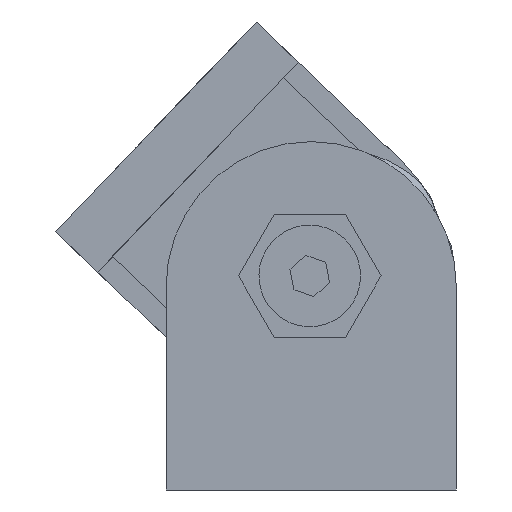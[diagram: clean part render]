
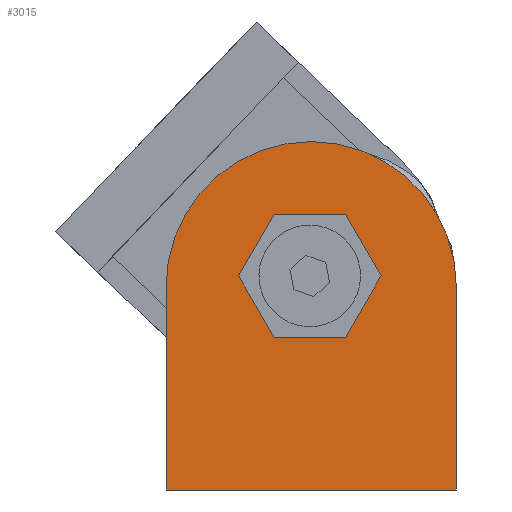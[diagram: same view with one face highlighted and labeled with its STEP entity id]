
A CAD part, left-side view. The second image highlights one B-rep face of the part: STEP entity #3015.
In plain terms, the highlighted planar face has unit normal (-1, 0, 0).
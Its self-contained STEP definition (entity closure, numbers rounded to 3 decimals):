
#7 = VECTOR ( 'NONE', #3054, 1000. ) ;
#19 = VECTOR ( 'NONE', #1827, 1000. ) ;
#23 = PLANE ( 'NONE',  #3921 ) ;
#69 = VECTOR ( 'NONE', #2554, 1000. ) ;
#74 = CARTESIAN_POINT ( 'NONE',  ( -26.332, 8.882, 29.5 ) ) ;
#135 = FACE_OUTER_BOUND ( 'NONE', #1474, .T. ) ;
#325 = CARTESIAN_POINT ( 'NONE',  ( -26.332, 3.974, 21. ) ) ;
#422 = CARTESIAN_POINT ( 'NONE',  ( -26.332, 18.882, 28. ) ) ;
#541 = CIRCLE ( 'NONE', #2945, 20. ) ;
#678 = VERTEX_POINT ( 'NONE', #2544 ) ;
#703 = CARTESIAN_POINT ( 'NONE',  ( -26.332, 18.882, 0. ) ) ;
#794 = VERTEX_POINT ( 'NONE', #74 ) ;
#883 = CARTESIAN_POINT ( 'NONE',  ( -26.332, 18.882, 48. ) ) ;
#900 = VERTEX_POINT ( 'NONE', #2691 ) ;
#935 = EDGE_CURVE ( 'NONE', #2254, #4011, #541, .T. ) ;
#1003 = LINE ( 'NONE', #1207, #69 ) ;
#1007 = EDGE_CURVE ( 'NONE', #900, #1428, #2773, .T. ) ;
#1009 = DIRECTION ( 'NONE',  ( 0., 1., 0. ) ) ;
#1028 = DIRECTION ( 'NONE',  ( -1., 0., 0. ) ) ;
#1084 = LINE ( 'NONE', #2063, #1090 ) ;
#1086 = ORIENTED_EDGE ( 'NONE', *, *, #4455, .T. ) ;
#1087 = ORIENTED_EDGE ( 'NONE', *, *, #4403, .F. ) ;
#1090 = VECTOR ( 'NONE', #3943, 1000. ) ;
#1202 = ORIENTED_EDGE ( 'NONE', *, *, #4249, .F. ) ;
#1207 = CARTESIAN_POINT ( 'NONE',  ( -26.332, -5.841, 21. ) ) ;
#1226 = EDGE_CURVE ( 'NONE', #1428, #4196, #1084, .T. ) ;
#1428 = VERTEX_POINT ( 'NONE', #2388 ) ;
#1456 = VECTOR ( 'NONE', #4435, 1000. ) ;
#1474 = EDGE_LOOP ( 'NONE', ( #1086, #3543, #2252, #3587, #1202 ) ) ;
#1510 = VECTOR ( 'NONE', #2463, 1000. ) ;
#1637 = DIRECTION ( 'NONE',  ( 1., 0., 0. ) ) ;
#1794 = ORIENTED_EDGE ( 'NONE', *, *, #1007, .F. ) ;
#1799 = LINE ( 'NONE', #883, #7 ) ;
#1827 = DIRECTION ( 'NONE',  ( 0., -0.5, -0.866 ) ) ;
#1833 = ORIENTED_EDGE ( 'NONE', *, *, #2943, .F. ) ;
#1919 = FACE_BOUND ( 'NONE', #4465, .T. ) ;
#2010 = CARTESIAN_POINT ( 'NONE',  ( -26.332, 3.974, 38. ) ) ;
#2063 = CARTESIAN_POINT ( 'NONE',  ( -26.332, -5.841, 38. ) ) ;
#2163 = VERTEX_POINT ( 'NONE', #703 ) ;
#2178 = CARTESIAN_POINT ( 'NONE',  ( -26.332, -1.118, 48. ) ) ;
#2238 = DIRECTION ( 'NONE',  ( -1., 0., 0. ) ) ;
#2252 = ORIENTED_EDGE ( 'NONE', *, *, #4158, .T. ) ;
#2254 = VERTEX_POINT ( 'NONE', #2178 ) ;
#2280 = DIRECTION ( 'NONE',  ( 0., 0.5, 0.866 ) ) ;
#2388 = CARTESIAN_POINT ( 'NONE',  ( -26.332, -5.841, 38. ) ) ;
#2409 = LINE ( 'NONE', #2416, #1456 ) ;
#2416 = CARTESIAN_POINT ( 'NONE',  ( -26.332, -21.118, 48. ) ) ;
#2443 = CARTESIAN_POINT ( 'NONE',  ( -26.332, -21.118, 28. ) ) ;
#2449 = CARTESIAN_POINT ( 'NONE',  ( -26.332, 18.882, 0. ) ) ;
#2463 = DIRECTION ( 'NONE',  ( 0., -1., 0. ) ) ;
#2544 = CARTESIAN_POINT ( 'NONE',  ( -26.332, 3.974, 21. ) ) ;
#2554 = DIRECTION ( 'NONE',  ( 0., -0.5, 0.866 ) ) ;
#2558 = CARTESIAN_POINT ( 'NONE',  ( -26.332, -1.118, 28. ) ) ;
#2587 = VERTEX_POINT ( 'NONE', #2443 ) ;
#2657 = VECTOR ( 'NONE', #2280, 1000. ) ;
#2691 = CARTESIAN_POINT ( 'NONE',  ( -26.332, -10.748, 29.5 ) ) ;
#2697 = LINE ( 'NONE', #2449, #4522 ) ;
#2773 = LINE ( 'NONE', #2841, #2657 ) ;
#2841 = CARTESIAN_POINT ( 'NONE',  ( -26.332, -10.748, 29.5 ) ) ;
#2933 = AXIS2_PLACEMENT_3D ( 'NONE', #3471, #1028, #3143 ) ;
#2943 = EDGE_CURVE ( 'NONE', #4196, #794, #3281, .T. ) ;
#2945 = AXIS2_PLACEMENT_3D ( 'NONE', #2558, #2238, #1009 ) ;
#3015 = ADVANCED_FACE ( 'NONE', ( #135, #1919 ), #23, .F. ) ;
#3028 = EDGE_CURVE ( 'NONE', #794, #678, #3636, .T. ) ;
#3054 = DIRECTION ( 'NONE',  ( 0., 0., -1. ) ) ;
#3060 = DIRECTION ( 'NONE',  ( 0., 1., 0. ) ) ;
#3143 = DIRECTION ( 'NONE',  ( 0., 1., 0. ) ) ;
#3169 = ORIENTED_EDGE ( 'NONE', *, *, #3028, .F. ) ;
#3195 = ORIENTED_EDGE ( 'NONE', *, *, #1226, .F. ) ;
#3281 = LINE ( 'NONE', #4102, #3960 ) ;
#3367 = CARTESIAN_POINT ( 'NONE',  ( -26.332, -5.841, 21. ) ) ;
#3370 = EDGE_CURVE ( 'NONE', #2163, #4000, #2697, .T. ) ;
#3415 = DIRECTION ( 'NONE',  ( 0., -1., 0. ) ) ;
#3471 = CARTESIAN_POINT ( 'NONE',  ( -26.332, -1.118, 28. ) ) ;
#3543 = ORIENTED_EDGE ( 'NONE', *, *, #935, .T. ) ;
#3587 = ORIENTED_EDGE ( 'NONE', *, *, #3370, .T. ) ;
#3636 = LINE ( 'NONE', #3858, #19 ) ;
#3661 = CARTESIAN_POINT ( 'NONE',  ( -26.332, -21.118, 0. ) ) ;
#3676 = CIRCLE ( 'NONE', #2933, 20. ) ;
#3724 = CARTESIAN_POINT ( 'NONE',  ( -26.332, 18.882, 48. ) ) ;
#3778 = VERTEX_POINT ( 'NONE', #3367 ) ;
#3858 = CARTESIAN_POINT ( 'NONE',  ( -26.332, 8.882, 29.5 ) ) ;
#3921 = AXIS2_PLACEMENT_3D ( 'NONE', #3724, #1637, #3060 ) ;
#3943 = DIRECTION ( 'NONE',  ( 0., 1., 0. ) ) ;
#3960 = VECTOR ( 'NONE', #4034, 1000. ) ;
#4000 = VERTEX_POINT ( 'NONE', #3661 ) ;
#4004 = ORIENTED_EDGE ( 'NONE', *, *, #4486, .F. ) ;
#4011 = VERTEX_POINT ( 'NONE', #422 ) ;
#4034 = DIRECTION ( 'NONE',  ( 0., 0.5, -0.866 ) ) ;
#4102 = CARTESIAN_POINT ( 'NONE',  ( -26.332, 3.974, 38. ) ) ;
#4158 = EDGE_CURVE ( 'NONE', #4011, #2163, #1799, .T. ) ;
#4175 = LINE ( 'NONE', #325, #1510 ) ;
#4196 = VERTEX_POINT ( 'NONE', #2010 ) ;
#4249 = EDGE_CURVE ( 'NONE', #2587, #4000, #2409, .T. ) ;
#4403 = EDGE_CURVE ( 'NONE', #3778, #900, #1003, .T. ) ;
#4435 = DIRECTION ( 'NONE',  ( 0., 0., -1. ) ) ;
#4455 = EDGE_CURVE ( 'NONE', #2587, #2254, #3676, .T. ) ;
#4465 = EDGE_LOOP ( 'NONE', ( #1087, #4004, #3169, #1833, #3195, #1794 ) ) ;
#4486 = EDGE_CURVE ( 'NONE', #678, #3778, #4175, .T. ) ;
#4522 = VECTOR ( 'NONE', #3415, 1000. ) ;
